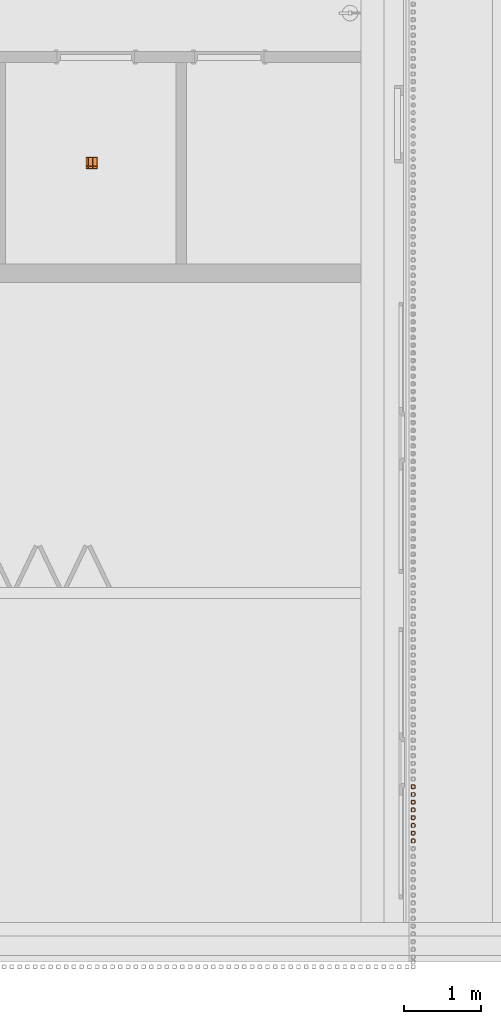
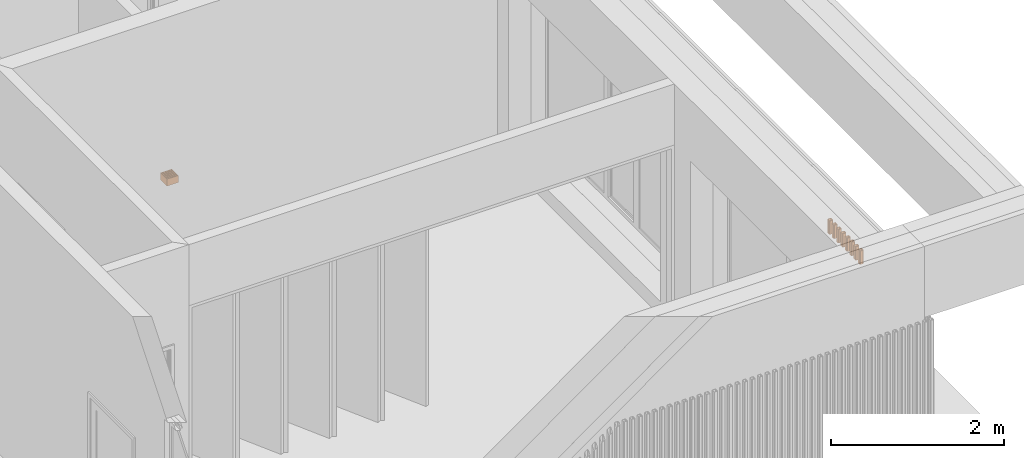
# One storey, part 90 of 112: 9 proxies.
"""IFC2X3 building model written with IfcOpenShell, lengths in millimetres."""

from ifc_helpers import new_model, entity, si_unit, converted_unit, derived_unit, money_unit, direction, frame, origin_with_axes, place, context, subcontext, project, spatial, faceted_brep, source, transform, mapped, material, type_object, element, save


model = new_model("IFC2X3")

# Units and contexts
model_context = context("Model", 3, precision=0.01, world=origin_with_axes(), true_north=direction((0.0, 1.0)))
body_context = subcontext(model_context, "Body", "Model", "MODEL_VIEW")
ifc_project = project(units=[si_unit("LENGTHUNIT", "METRE", prefix="MILLI"), si_unit("AREAUNIT", "SQUARE_METRE"), si_unit("VOLUMEUNIT", "CUBIC_METRE"), converted_unit("PLANEANGLEUNIT", "DEGREE", entity("IfcPlaneAngleMeasure", 0.0174532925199), si_unit("PLANEANGLEUNIT", "RADIAN"), dimensions=[0, 0, 0, 0, 0, 0, 0]), si_unit("SOLIDANGLEUNIT", "STERADIAN"), money_unit("EUR"), converted_unit("TIMEUNIT", "Year", entity("IfcTimeMeasure", 31556926.0), si_unit("TIMEUNIT", "SECOND"), dimensions=[0, 0, 1, 0, 0, 0, 0]), si_unit("MASSUNIT", "GRAM", prefix="KILO"), si_unit("THERMODYNAMICTEMPERATUREUNIT", "DEGREE_CELSIUS"), si_unit("LUMINOUSINTENSITYUNIT", "LUMEN"), si_unit("ENERGYUNIT", "JOULE", prefix="MEGA"), derived_unit("THERMALCONDUCTANCEUNIT", [(si_unit("POWERUNIT", "WATT"), 1), (si_unit("LENGTHUNIT", "METRE"), -1), (si_unit("THERMODYNAMICTEMPERATUREUNIT", "KELVIN"), -1)]), derived_unit("SPECIFICHEATCAPACITYUNIT", [(si_unit("ENERGYUNIT", "JOULE"), 1), (si_unit("MASSUNIT", "GRAM", prefix="KILO"), -1), (si_unit("THERMODYNAMICTEMPERATUREUNIT", "KELVIN"), -1)]), derived_unit("MASSDENSITYUNIT", [(si_unit("MASSUNIT", "GRAM", prefix="KILO"), 1), (si_unit("VOLUMEUNIT", "CUBIC_METRE"), -1)])], contexts=[model_context])

# Site, building, storey
site_placement = place(None, origin_with_axes())
site = spatial("IfcSite", under=ifc_project, at=site_placement, Name="Politse- ja Piirivalveameti ning Päästeameti ühishoone", CompositionType="ELEMENT")
building_placement = place(site_placement, origin_with_axes())
building = spatial("IfcBuilding", under=site, at=building_placement, Name="Politse- ja Piirivalveameti ning Päästeameti ühishoone", CompositionType="ELEMENT")
storey_placement = place(building_placement, origin_with_axes())
storey = spatial("IfcBuildingStorey", under=building, at=storey_placement, Name="Esimene korrus", CompositionType="ELEMENT", Elevation=0.0)

# Proxies
building_element_proxy_type_1 = type_object("IfcBuildingElementProxyType", Name="Grid 23", PredefinedType="NOTDEFINED")
shared_shape_1 = source(origin_with_axes(), body_context, "Body", "Brep", [
    faceted_brep([(0.0, 0.0, 0.0), (5.0, 5.0, 0.0), (5.0, 5.0, 100.0), (0.0, 0.0, 100.0), (0.0, 150.0, 0.0), (5.0, 145.0, 0.0), (5.0, 119.5, 0.0), (5.0, 117.5, 0.0), (5.0, 90.5, 0.0), (5.0, 88.5, 0.0), (5.0, 61.5, 0.0), (5.0, 59.5, 0.0), (5.0, 32.5, 0.0), (5.0, 30.5, 0.0), (5.0, 30.5, 100.0), (5.0, 32.5, 100.0), (5.0, 59.5, 100.0), (5.0, 61.5, 100.0), (5.0, 88.5, 100.0), (5.0, 90.5, 100.0), (5.0, 117.5, 100.0), (5.0, 119.5, 100.0), (5.0, 145.0, 100.0), (0.0, 150.0, 100.0)], [[[0, 1, 2, 3]], [[0, 4, 5, 6, 7, 8, 9, 10, 11, 12, 13, 1]], [[1, 13, 14, 2]], [[3, 2, 14, 15, 16, 17, 18, 19, 20, 21, 22, 23]], [[4, 0, 3, 23]], [[5, 4, 23, 22]], [[6, 5, 22, 21]], [[7, 6, 21, 20]], [[8, 7, 20, 19]], [[9, 8, 19, 18]], [[10, 9, 18, 17]], [[11, 10, 17, 16]], [[12, 11, 16, 15]], [[13, 12, 15, 14]]]),
    faceted_brep([(150.0, 150.0, 0.0), (145.0, 145.0, 0.0), (145.0, 145.0, 100.0), (150.0, 150.0, 100.0), (150.0, 0.0, 0.0), (145.0, 5.0, 0.0), (145.0, 30.5, 0.0), (145.0, 32.5, 0.0), (145.0, 59.5, 0.0), (145.0, 61.5, 0.0), (145.0, 88.5, 0.0), (145.0, 90.5, 0.0), (145.0, 117.5, 0.0), (145.0, 119.5, 0.0), (145.0, 119.5, 100.0), (145.0, 117.5, 100.0), (145.0, 90.5, 100.0), (145.0, 88.5, 100.0), (145.0, 61.5, 100.0), (145.0, 59.5, 100.0), (145.0, 32.5, 100.0), (145.0, 30.5, 100.0), (145.0, 5.0, 100.0), (150.0, 0.0, 100.0)], [[[0, 1, 2, 3]], [[0, 4, 5, 6, 7, 8, 9, 10, 11, 12, 13, 1]], [[1, 13, 14, 2]], [[3, 2, 14, 15, 16, 17, 18, 19, 20, 21, 22, 23]], [[4, 0, 3, 23]], [[5, 4, 23, 22]], [[6, 5, 22, 21]], [[7, 6, 21, 20]], [[8, 7, 20, 19]], [[9, 8, 19, 18]], [[10, 9, 18, 17]], [[11, 10, 17, 16]], [[12, 11, 16, 15]], [[13, 12, 15, 14]]]),
    faceted_brep([(150.0, 0.0, 0.0), (145.0, 5.0, 0.0), (145.0, 5.0, 100.0), (150.0, 0.0, 100.0), (0.0, 0.0, 0.0), (5.0, 5.0, 0.0), (30.5, 5.0, 0.0), (32.5, 5.0, 0.0), (59.5, 5.0, 0.0), (61.5, 5.0, 0.0), (88.5, 5.0, 0.0), (90.5, 5.0, 0.0), (117.5, 5.0, 0.0), (119.5, 5.0, 0.0), (119.5, 5.0, 100.0), (117.5, 5.0, 100.0), (90.5, 5.0, 100.0), (88.5, 5.0, 100.0), (61.5, 5.0, 100.0), (59.5, 5.0, 100.0), (32.5, 5.0, 100.0), (30.5, 5.0, 100.0), (5.0, 5.0, 100.0), (0.0, 0.0, 100.0)], [[[0, 1, 2, 3]], [[0, 4, 5, 6, 7, 8, 9, 10, 11, 12, 13, 1]], [[1, 13, 14, 2]], [[3, 2, 14, 15, 16, 17, 18, 19, 20, 21, 22, 23]], [[4, 0, 3, 23]], [[5, 4, 23, 22]], [[6, 5, 22, 21]], [[7, 6, 21, 20]], [[8, 7, 20, 19]], [[9, 8, 19, 18]], [[10, 9, 18, 17]], [[11, 10, 17, 16]], [[12, 11, 16, 15]], [[13, 12, 15, 14]]]),
    faceted_brep([(0.0, 150.0, 0.0), (5.0, 145.0, 0.0), (5.0, 145.0, 100.0), (0.0, 150.0, 100.0), (150.0, 150.0, 0.0), (145.0, 145.0, 0.0), (119.5, 145.0, 0.0), (117.5, 145.0, 0.0), (90.5, 145.0, 0.0), (88.5, 145.0, 0.0), (61.5, 145.0, 0.0), (59.5, 145.0, 0.0), (32.5, 145.0, 0.0), (30.5, 145.0, 0.0), (30.5, 145.0, 100.0), (32.5, 145.0, 100.0), (59.5, 145.0, 100.0), (61.5, 145.0, 100.0), (88.5, 145.0, 100.0), (90.5, 145.0, 100.0), (117.5, 145.0, 100.0), (119.5, 145.0, 100.0), (145.0, 145.0, 100.0), (150.0, 150.0, 100.0)], [[[0, 1, 2, 3]], [[0, 4, 5, 6, 7, 8, 9, 10, 11, 12, 13, 1]], [[1, 13, 14, 2]], [[3, 2, 14, 15, 16, 17, 18, 19, 20, 21, 22, 23]], [[4, 0, 3, 23]], [[5, 4, 23, 22]], [[6, 5, 22, 21]], [[7, 6, 21, 20]], [[8, 7, 20, 19]], [[9, 8, 19, 18]], [[10, 9, 18, 17]], [[11, 10, 17, 16]], [[12, 11, 16, 15]], [[13, 12, 15, 14]]]),
    faceted_brep([(30.5, 5.0, 0.0), (32.5, 5.0, 0.0), (32.5, 5.0, 100.0), (30.5, 5.0, 100.0), (30.5, 30.5, 0.0), (30.5, 32.5, 0.0), (30.5, 59.5, 0.0), (30.5, 61.5, 0.0), (30.5, 88.5, 0.0), (30.5, 90.5, 0.0), (30.5, 117.5, 0.0), (30.5, 119.5, 0.0), (30.5, 145.0, 0.0), (32.5, 145.0, 0.0), (32.5, 119.5, 0.0), (32.5, 117.5, 0.0), (32.5, 90.5, 0.0), (32.5, 88.5, 0.0), (32.5, 61.5, 0.0), (32.5, 59.5, 0.0), (32.5, 32.5, 0.0), (32.5, 30.5, 0.0), (32.5, 30.5, 100.0), (32.5, 32.5, 100.0), (32.5, 59.5, 100.0), (32.5, 61.5, 100.0), (32.5, 88.5, 100.0), (32.5, 90.5, 100.0), (32.5, 117.5, 100.0), (32.5, 119.5, 100.0), (32.5, 145.0, 100.0), (30.5, 145.0, 100.0), (30.5, 119.5, 100.0), (30.5, 117.5, 100.0), (30.5, 90.5, 100.0), (30.5, 88.5, 100.0), (30.5, 61.5, 100.0), (30.5, 59.5, 100.0), (30.5, 32.5, 100.0), (30.5, 30.5, 100.0)], [[[0, 1, 2, 3]], [[0, 4, 5, 6, 7, 8, 9, 10, 11, 12, 13, 14, 15, 16, 17, 18, 19, 20, 21, 1]], [[1, 21, 22, 2]], [[3, 2, 22, 23, 24, 25, 26, 27, 28, 29, 30, 31, 32, 33, 34, 35, 36, 37, 38, 39]], [[4, 0, 3, 39]], [[5, 4, 39, 38]], [[6, 5, 38, 37]], [[7, 6, 37, 36]], [[8, 7, 36, 35]], [[9, 8, 35, 34]], [[10, 9, 34, 33]], [[11, 10, 33, 32]], [[12, 11, 32, 31]], [[13, 12, 31, 30]], [[14, 13, 30, 29]], [[15, 14, 29, 28]], [[16, 15, 28, 27]], [[17, 16, 27, 26]], [[18, 17, 26, 25]], [[19, 18, 25, 24]], [[20, 19, 24, 23]], [[21, 20, 23, 22]]]),
    faceted_brep([(59.5, 5.0, 0.0), (61.5, 5.0, 0.0), (61.5, 5.0, 100.0), (59.5, 5.0, 100.0), (59.5, 30.5, 0.0), (59.5, 32.5, 0.0), (59.5, 59.5, 0.0), (59.5, 61.5, 0.0), (59.5, 88.5, 0.0), (59.5, 90.5, 0.0), (59.5, 117.5, 0.0), (59.5, 119.5, 0.0), (59.5, 145.0, 0.0), (61.5, 145.0, 0.0), (61.5, 119.5, 0.0), (61.5, 117.5, 0.0), (61.5, 90.5, 0.0), (61.5, 88.5, 0.0), (61.5, 61.5, 0.0), (61.5, 59.5, 0.0), (61.5, 32.5, 0.0), (61.5, 30.5, 0.0), (61.5, 30.5, 100.0), (61.5, 32.5, 100.0), (61.5, 59.5, 100.0), (61.5, 61.5, 100.0), (61.5, 88.5, 100.0), (61.5, 90.5, 100.0), (61.5, 117.5, 100.0), (61.5, 119.5, 100.0), (61.5, 145.0, 100.0), (59.5, 145.0, 100.0), (59.5, 119.5, 100.0), (59.5, 117.5, 100.0), (59.5, 90.5, 100.0), (59.5, 88.5, 100.0), (59.5, 61.5, 100.0), (59.5, 59.5, 100.0), (59.5, 32.5, 100.0), (59.5, 30.5, 100.0)], [[[0, 1, 2, 3]], [[0, 4, 5, 6, 7, 8, 9, 10, 11, 12, 13, 14, 15, 16, 17, 18, 19, 20, 21, 1]], [[1, 21, 22, 2]], [[3, 2, 22, 23, 24, 25, 26, 27, 28, 29, 30, 31, 32, 33, 34, 35, 36, 37, 38, 39]], [[4, 0, 3, 39]], [[5, 4, 39, 38]], [[6, 5, 38, 37]], [[7, 6, 37, 36]], [[8, 7, 36, 35]], [[9, 8, 35, 34]], [[10, 9, 34, 33]], [[11, 10, 33, 32]], [[12, 11, 32, 31]], [[13, 12, 31, 30]], [[14, 13, 30, 29]], [[15, 14, 29, 28]], [[16, 15, 28, 27]], [[17, 16, 27, 26]], [[18, 17, 26, 25]], [[19, 18, 25, 24]], [[20, 19, 24, 23]], [[21, 20, 23, 22]]]),
    faceted_brep([(88.5, 5.0, 0.0), (90.5, 5.0, 0.0), (90.5, 5.0, 100.0), (88.5, 5.0, 100.0), (88.5, 30.5, 0.0), (88.5, 32.5, 0.0), (88.5, 59.5, 0.0), (88.5, 61.5, 0.0), (88.5, 88.5, 0.0), (88.5, 90.5, 0.0), (88.5, 117.5, 0.0), (88.5, 119.5, 0.0), (88.5, 145.0, 0.0), (90.5, 145.0, 0.0), (90.5, 119.5, 0.0), (90.5, 117.5, 0.0), (90.5, 90.5, 0.0), (90.5, 88.5, 0.0), (90.5, 61.5, 0.0), (90.5, 59.5, 0.0), (90.5, 32.5, 0.0), (90.5, 30.5, 0.0), (90.5, 30.5, 100.0), (90.5, 32.5, 100.0), (90.5, 59.5, 100.0), (90.5, 61.5, 100.0), (90.5, 88.5, 100.0), (90.5, 90.5, 100.0), (90.5, 117.5, 100.0), (90.5, 119.5, 100.0), (90.5, 145.0, 100.0), (88.5, 145.0, 100.0), (88.5, 119.5, 100.0), (88.5, 117.5, 100.0), (88.5, 90.5, 100.0), (88.5, 88.5, 100.0), (88.5, 61.5, 100.0), (88.5, 59.5, 100.0), (88.5, 32.5, 100.0), (88.5, 30.5, 100.0)], [[[0, 1, 2, 3]], [[0, 4, 5, 6, 7, 8, 9, 10, 11, 12, 13, 14, 15, 16, 17, 18, 19, 20, 21, 1]], [[1, 21, 22, 2]], [[3, 2, 22, 23, 24, 25, 26, 27, 28, 29, 30, 31, 32, 33, 34, 35, 36, 37, 38, 39]], [[4, 0, 3, 39]], [[5, 4, 39, 38]], [[6, 5, 38, 37]], [[7, 6, 37, 36]], [[8, 7, 36, 35]], [[9, 8, 35, 34]], [[10, 9, 34, 33]], [[11, 10, 33, 32]], [[12, 11, 32, 31]], [[13, 12, 31, 30]], [[14, 13, 30, 29]], [[15, 14, 29, 28]], [[16, 15, 28, 27]], [[17, 16, 27, 26]], [[18, 17, 26, 25]], [[19, 18, 25, 24]], [[20, 19, 24, 23]], [[21, 20, 23, 22]]]),
    faceted_brep([(117.5, 5.0, 0.0), (119.5, 5.0, 0.0), (119.5, 5.0, 100.0), (117.5, 5.0, 100.0), (117.5, 30.5, 0.0), (117.5, 32.5, 0.0), (117.5, 59.5, 0.0), (117.5, 61.5, 0.0), (117.5, 88.5, 0.0), (117.5, 90.5, 0.0), (117.5, 117.5, 0.0), (117.5, 119.5, 0.0), (117.5, 145.0, 0.0), (119.5, 145.0, 0.0), (119.5, 119.5, 0.0), (119.5, 117.5, 0.0), (119.5, 90.5, 0.0), (119.5, 88.5, 0.0), (119.5, 61.5, 0.0), (119.5, 59.5, 0.0), (119.5, 32.5, 0.0), (119.5, 30.5, 0.0), (119.5, 30.5, 100.0), (119.5, 32.5, 100.0), (119.5, 59.5, 100.0), (119.5, 61.5, 100.0), (119.5, 88.5, 100.0), (119.5, 90.5, 100.0), (119.5, 117.5, 100.0), (119.5, 119.5, 100.0), (119.5, 145.0, 100.0), (117.5, 145.0, 100.0), (117.5, 119.5, 100.0), (117.5, 117.5, 100.0), (117.5, 90.5, 100.0), (117.5, 88.5, 100.0), (117.5, 61.5, 100.0), (117.5, 59.5, 100.0), (117.5, 32.5, 100.0), (117.5, 30.5, 100.0)], [[[0, 1, 2, 3]], [[0, 4, 5, 6, 7, 8, 9, 10, 11, 12, 13, 14, 15, 16, 17, 18, 19, 20, 21, 1]], [[1, 21, 22, 2]], [[3, 2, 22, 23, 24, 25, 26, 27, 28, 29, 30, 31, 32, 33, 34, 35, 36, 37, 38, 39]], [[4, 0, 3, 39]], [[5, 4, 39, 38]], [[6, 5, 38, 37]], [[7, 6, 37, 36]], [[8, 7, 36, 35]], [[9, 8, 35, 34]], [[10, 9, 34, 33]], [[11, 10, 33, 32]], [[12, 11, 32, 31]], [[13, 12, 31, 30]], [[14, 13, 30, 29]], [[15, 14, 29, 28]], [[16, 15, 28, 27]], [[17, 16, 27, 26]], [[18, 17, 26, 25]], [[19, 18, 25, 24]], [[20, 19, 24, 23]], [[21, 20, 23, 22]]]),
    faceted_brep([(30.5, 30.5, 0.0), (30.5, 32.5, 0.0), (30.5, 32.5, 100.0), (30.5, 30.5, 100.0), (5.0, 30.5, 0.0), (5.0, 32.5, 0.0), (5.0, 32.5, 100.0), (5.0, 30.5, 100.0)], [[[0, 1, 2, 3]], [[0, 4, 5, 1]], [[1, 5, 6, 2]], [[3, 2, 6, 7]], [[4, 0, 3, 7]], [[5, 4, 7, 6]]]),
    faceted_brep([(30.5, 59.5, 0.0), (30.5, 61.5, 0.0), (30.5, 61.5, 100.0), (30.5, 59.5, 100.0), (5.0, 59.5, 0.0), (5.0, 61.5, 0.0), (5.0, 61.5, 100.0), (5.0, 59.5, 100.0)], [[[0, 1, 2, 3]], [[0, 4, 5, 1]], [[1, 5, 6, 2]], [[3, 2, 6, 7]], [[4, 0, 3, 7]], [[5, 4, 7, 6]]]),
    faceted_brep([(30.5, 88.5, 0.0), (30.5, 90.5, 0.0), (30.5, 90.5, 100.0), (30.5, 88.5, 100.0), (5.0, 88.5, 0.0), (5.0, 90.5, 0.0), (5.0, 90.5, 100.0), (5.0, 88.5, 100.0)], [[[0, 1, 2, 3]], [[0, 4, 5, 1]], [[1, 5, 6, 2]], [[3, 2, 6, 7]], [[4, 0, 3, 7]], [[5, 4, 7, 6]]]),
    faceted_brep([(30.5, 117.5, 0.0), (30.5, 119.5, 0.0), (30.5, 119.5, 100.0), (30.5, 117.5, 100.0), (5.0, 117.5, 0.0), (5.0, 119.5, 0.0), (5.0, 119.5, 100.0), (5.0, 117.5, 100.0)], [[[0, 1, 2, 3]], [[0, 4, 5, 1]], [[1, 5, 6, 2]], [[3, 2, 6, 7]], [[4, 0, 3, 7]], [[5, 4, 7, 6]]]),
    faceted_brep([(59.5, 30.5, 0.0), (59.5, 32.5, 0.0), (59.5, 32.5, 100.0), (59.5, 30.5, 100.0), (32.5, 30.5, 0.0), (32.5, 32.5, 0.0), (32.5, 32.5, 100.0), (32.5, 30.5, 100.0)], [[[0, 1, 2, 3]], [[0, 4, 5, 1]], [[1, 5, 6, 2]], [[3, 2, 6, 7]], [[4, 0, 3, 7]], [[5, 4, 7, 6]]]),
    faceted_brep([(59.5, 59.5, 0.0), (59.5, 61.5, 0.0), (59.5, 61.5, 100.0), (59.5, 59.5, 100.0), (32.5, 59.5, 0.0), (32.5, 61.5, 0.0), (32.5, 61.5, 100.0), (32.5, 59.5, 100.0)], [[[0, 1, 2, 3]], [[0, 4, 5, 1]], [[1, 5, 6, 2]], [[3, 2, 6, 7]], [[4, 0, 3, 7]], [[5, 4, 7, 6]]]),
    faceted_brep([(59.5, 88.5, 0.0), (59.5, 90.5, 0.0), (59.5, 90.5, 100.0), (59.5, 88.5, 100.0), (32.5, 88.5, 0.0), (32.5, 90.5, 0.0), (32.5, 90.5, 100.0), (32.5, 88.5, 100.0)], [[[0, 1, 2, 3]], [[0, 4, 5, 1]], [[1, 5, 6, 2]], [[3, 2, 6, 7]], [[4, 0, 3, 7]], [[5, 4, 7, 6]]]),
    faceted_brep([(59.5, 117.5, 0.0), (59.5, 119.5, 0.0), (59.5, 119.5, 100.0), (59.5, 117.5, 100.0), (32.5, 117.5, 0.0), (32.5, 119.5, 0.0), (32.5, 119.5, 100.0), (32.5, 117.5, 100.0)], [[[0, 1, 2, 3]], [[0, 4, 5, 1]], [[1, 5, 6, 2]], [[3, 2, 6, 7]], [[4, 0, 3, 7]], [[5, 4, 7, 6]]]),
    faceted_brep([(88.5, 30.5, 0.0), (88.5, 32.5, 0.0), (88.5, 32.5, 100.0), (88.5, 30.5, 100.0), (61.5, 30.5, 0.0), (61.5, 32.5, 0.0), (61.5, 32.5, 100.0), (61.5, 30.5, 100.0)], [[[0, 1, 2, 3]], [[0, 4, 5, 1]], [[1, 5, 6, 2]], [[3, 2, 6, 7]], [[4, 0, 3, 7]], [[5, 4, 7, 6]]]),
    faceted_brep([(88.5, 59.5, 0.0), (88.5, 61.5, 0.0), (88.5, 61.5, 100.0), (88.5, 59.5, 100.0), (61.5, 59.5, 0.0), (61.5, 61.5, 0.0), (61.5, 61.5, 100.0), (61.5, 59.5, 100.0)], [[[0, 1, 2, 3]], [[0, 4, 5, 1]], [[1, 5, 6, 2]], [[3, 2, 6, 7]], [[4, 0, 3, 7]], [[5, 4, 7, 6]]]),
    faceted_brep([(88.5, 88.5, 0.0), (88.5, 90.5, 0.0), (88.5, 90.5, 100.0), (88.5, 88.5, 100.0), (61.5, 88.5, 0.0), (61.5, 90.5, 0.0), (61.5, 90.5, 100.0), (61.5, 88.5, 100.0)], [[[0, 1, 2, 3]], [[0, 4, 5, 1]], [[1, 5, 6, 2]], [[3, 2, 6, 7]], [[4, 0, 3, 7]], [[5, 4, 7, 6]]]),
    faceted_brep([(88.5, 117.5, 0.0), (88.5, 119.5, 0.0), (88.5, 119.5, 100.0), (88.5, 117.5, 100.0), (61.5, 117.5, 0.0), (61.5, 119.5, 0.0), (61.5, 119.5, 100.0), (61.5, 117.5, 100.0)], [[[0, 1, 2, 3]], [[0, 4, 5, 1]], [[1, 5, 6, 2]], [[3, 2, 6, 7]], [[4, 0, 3, 7]], [[5, 4, 7, 6]]]),
    faceted_brep([(117.5, 30.5, 0.0), (117.5, 32.5, 0.0), (117.5, 32.5, 100.0), (117.5, 30.5, 100.0), (90.5, 30.5, 0.0), (90.5, 32.5, 0.0), (90.5, 32.5, 100.0), (90.5, 30.5, 100.0)], [[[0, 1, 2, 3]], [[0, 4, 5, 1]], [[1, 5, 6, 2]], [[3, 2, 6, 7]], [[4, 0, 3, 7]], [[5, 4, 7, 6]]]),
    faceted_brep([(117.5, 59.5, 0.0), (117.5, 61.5, 0.0), (117.5, 61.5, 100.0), (117.5, 59.5, 100.0), (90.5, 59.5, 0.0), (90.5, 61.5, 0.0), (90.5, 61.5, 100.0), (90.5, 59.5, 100.0)], [[[0, 1, 2, 3]], [[0, 4, 5, 1]], [[1, 5, 6, 2]], [[3, 2, 6, 7]], [[4, 0, 3, 7]], [[5, 4, 7, 6]]]),
    faceted_brep([(117.5, 88.5, 0.0), (117.5, 90.5, 0.0), (117.5, 90.5, 100.0), (117.5, 88.5, 100.0), (90.5, 88.5, 0.0), (90.5, 90.5, 0.0), (90.5, 90.5, 100.0), (90.5, 88.5, 100.0)], [[[0, 1, 2, 3]], [[0, 4, 5, 1]], [[1, 5, 6, 2]], [[3, 2, 6, 7]], [[4, 0, 3, 7]], [[5, 4, 7, 6]]]),
    faceted_brep([(117.5, 117.5, 0.0), (117.5, 119.5, 0.0), (117.5, 119.5, 100.0), (117.5, 117.5, 100.0), (90.5, 117.5, 0.0), (90.5, 119.5, 0.0), (90.5, 119.5, 100.0), (90.5, 117.5, 100.0)], [[[0, 1, 2, 3]], [[0, 4, 5, 1]], [[1, 5, 6, 2]], [[3, 2, 6, 7]], [[4, 0, 3, 7]], [[5, 4, 7, 6]]]),
    faceted_brep([(145.0, 30.5, 0.0), (145.0, 32.5, 0.0), (145.0, 32.5, 100.0), (145.0, 30.5, 100.0), (119.5, 30.5, 0.0), (119.5, 32.5, 0.0), (119.5, 32.5, 100.0), (119.5, 30.5, 100.0)], [[[0, 1, 2, 3]], [[0, 4, 5, 1]], [[1, 5, 6, 2]], [[3, 2, 6, 7]], [[4, 0, 3, 7]], [[5, 4, 7, 6]]]),
    faceted_brep([(145.0, 59.5, 0.0), (145.0, 61.5, 0.0), (145.0, 61.5, 100.0), (145.0, 59.5, 100.0), (119.5, 59.5, 0.0), (119.5, 61.5, 0.0), (119.5, 61.5, 100.0), (119.5, 59.5, 100.0)], [[[0, 1, 2, 3]], [[0, 4, 5, 1]], [[1, 5, 6, 2]], [[3, 2, 6, 7]], [[4, 0, 3, 7]], [[5, 4, 7, 6]]]),
    faceted_brep([(145.0, 88.5, 0.0), (145.0, 90.5, 0.0), (145.0, 90.5, 100.0), (145.0, 88.5, 100.0), (119.5, 88.5, 0.0), (119.5, 90.5, 0.0), (119.5, 90.5, 100.0), (119.5, 88.5, 100.0)], [[[0, 1, 2, 3]], [[0, 4, 5, 1]], [[1, 5, 6, 2]], [[3, 2, 6, 7]], [[4, 0, 3, 7]], [[5, 4, 7, 6]]]),
    faceted_brep([(145.0, 117.5, 0.0), (145.0, 119.5, 0.0), (145.0, 119.5, 100.0), (145.0, 117.5, 100.0), (119.5, 117.5, 0.0), (119.5, 119.5, 0.0), (119.5, 119.5, 100.0), (119.5, 117.5, 100.0)], [[[0, 1, 2, 3]], [[0, 4, 5, 1]], [[1, 5, 6, 2]], [[3, 2, 6, 7]], [[4, 0, 3, 7]], [[5, 4, 7, 6]]]),
    faceted_brep([(5.0, 5.0, 43.65), (30.5, 5.0, 43.65), (30.5, 5.0, 56.35), (5.0, 5.0, 56.35), (5.0, 30.5, 43.65), (30.5, 30.5, 43.65), (30.5, 30.5, 56.35), (5.0, 30.5, 56.35)], [[[0, 1, 2, 3]], [[0, 4, 5, 1]], [[1, 5, 6, 2]], [[3, 2, 6, 7]], [[4, 0, 3, 7]], [[5, 4, 7, 6]]]),
    faceted_brep([(5.0, 32.5, 43.65), (30.5, 32.5, 43.65), (30.5, 32.5, 56.35), (5.0, 32.5, 56.35), (5.0, 59.5, 43.65), (30.5, 59.5, 43.65), (30.5, 59.5, 56.35), (5.0, 59.5, 56.35)], [[[0, 1, 2, 3]], [[0, 4, 5, 1]], [[1, 5, 6, 2]], [[3, 2, 6, 7]], [[4, 0, 3, 7]], [[5, 4, 7, 6]]]),
    faceted_brep([(5.0, 61.5, 43.65), (30.5, 61.5, 43.65), (30.5, 61.5, 56.35), (5.0, 61.5, 56.35), (5.0, 88.5, 43.65), (30.5, 88.5, 43.65), (30.5, 88.5, 56.35), (5.0, 88.5, 56.35)], [[[0, 1, 2, 3]], [[0, 4, 5, 1]], [[1, 5, 6, 2]], [[3, 2, 6, 7]], [[4, 0, 3, 7]], [[5, 4, 7, 6]]]),
    faceted_brep([(5.0, 90.5, 43.65), (30.5, 90.5, 43.65), (30.5, 90.5, 56.35), (5.0, 90.5, 56.35), (5.0, 117.5, 43.65), (30.5, 117.5, 43.65), (30.5, 117.5, 56.35), (5.0, 117.5, 56.35)], [[[0, 1, 2, 3]], [[0, 4, 5, 1]], [[1, 5, 6, 2]], [[3, 2, 6, 7]], [[4, 0, 3, 7]], [[5, 4, 7, 6]]]),
    faceted_brep([(5.0, 119.5, 43.65), (30.5, 119.5, 43.65), (30.5, 119.5, 56.35), (5.0, 119.5, 56.35), (5.0, 145.0, 43.65), (30.5, 145.0, 43.65), (30.5, 145.0, 56.35), (5.0, 145.0, 56.35)], [[[0, 1, 2, 3]], [[0, 4, 5, 1]], [[1, 5, 6, 2]], [[3, 2, 6, 7]], [[4, 0, 3, 7]], [[5, 4, 7, 6]]]),
    faceted_brep([(32.5, 5.0, 43.65), (59.5, 5.0, 43.65), (59.5, 5.0, 56.35), (32.5, 5.0, 56.35), (32.5, 30.5, 43.65), (59.5, 30.5, 43.65), (59.5, 30.5, 56.35), (32.5, 30.5, 56.35)], [[[0, 1, 2, 3]], [[0, 4, 5, 1]], [[1, 5, 6, 2]], [[3, 2, 6, 7]], [[4, 0, 3, 7]], [[5, 4, 7, 6]]]),
    faceted_brep([(32.5, 32.5, 43.65), (59.5, 32.5, 43.65), (59.5, 32.5, 56.35), (32.5, 32.5, 56.35), (32.5, 59.5, 43.65), (59.5, 59.5, 43.65), (59.5, 59.5, 56.35), (32.5, 59.5, 56.35)], [[[0, 1, 2, 3]], [[0, 4, 5, 1]], [[1, 5, 6, 2]], [[3, 2, 6, 7]], [[4, 0, 3, 7]], [[5, 4, 7, 6]]]),
    faceted_brep([(32.5, 61.5, 43.65), (59.5, 61.5, 43.65), (59.5, 61.5, 56.35), (32.5, 61.5, 56.35), (32.5, 88.5, 43.65), (59.5, 88.5, 43.65), (59.5, 88.5, 56.35), (32.5, 88.5, 56.35)], [[[0, 1, 2, 3]], [[0, 4, 5, 1]], [[1, 5, 6, 2]], [[3, 2, 6, 7]], [[4, 0, 3, 7]], [[5, 4, 7, 6]]]),
    faceted_brep([(32.5, 90.5, 43.65), (59.5, 90.5, 43.65), (59.5, 90.5, 56.35), (32.5, 90.5, 56.35), (32.5, 117.5, 43.65), (59.5, 117.5, 43.65), (59.5, 117.5, 56.35), (32.5, 117.5, 56.35)], [[[0, 1, 2, 3]], [[0, 4, 5, 1]], [[1, 5, 6, 2]], [[3, 2, 6, 7]], [[4, 0, 3, 7]], [[5, 4, 7, 6]]]),
    faceted_brep([(32.5, 119.5, 43.65), (59.5, 119.5, 43.65), (59.5, 119.5, 56.35), (32.5, 119.5, 56.35), (32.5, 145.0, 43.65), (59.5, 145.0, 43.65), (59.5, 145.0, 56.35), (32.5, 145.0, 56.35)], [[[0, 1, 2, 3]], [[0, 4, 5, 1]], [[1, 5, 6, 2]], [[3, 2, 6, 7]], [[4, 0, 3, 7]], [[5, 4, 7, 6]]]),
    faceted_brep([(61.5, 5.0, 43.65), (88.5, 5.0, 43.65), (88.5, 5.0, 56.35), (61.5, 5.0, 56.35), (61.5, 30.5, 43.65), (88.5, 30.5, 43.65), (88.5, 30.5, 56.35), (61.5, 30.5, 56.35)], [[[0, 1, 2, 3]], [[0, 4, 5, 1]], [[1, 5, 6, 2]], [[3, 2, 6, 7]], [[4, 0, 3, 7]], [[5, 4, 7, 6]]]),
    faceted_brep([(61.5, 32.5, 43.65), (88.5, 32.5, 43.65), (88.5, 32.5, 56.35), (61.5, 32.5, 56.35), (61.5, 59.5, 43.65), (88.5, 59.5, 43.65), (88.5, 59.5, 56.35), (61.5, 59.5, 56.35)], [[[0, 1, 2, 3]], [[0, 4, 5, 1]], [[1, 5, 6, 2]], [[3, 2, 6, 7]], [[4, 0, 3, 7]], [[5, 4, 7, 6]]]),
    faceted_brep([(61.5, 61.5, 43.65), (88.5, 61.5, 43.65), (88.5, 61.5, 56.35), (61.5, 61.5, 56.35), (61.5, 88.5, 43.65), (88.5, 88.5, 43.65), (88.5, 88.5, 56.35), (61.5, 88.5, 56.35)], [[[0, 1, 2, 3]], [[0, 4, 5, 1]], [[1, 5, 6, 2]], [[3, 2, 6, 7]], [[4, 0, 3, 7]], [[5, 4, 7, 6]]]),
    faceted_brep([(61.5, 90.5, 43.65), (88.5, 90.5, 43.65), (88.5, 90.5, 56.35), (61.5, 90.5, 56.35), (61.5, 117.5, 43.65), (88.5, 117.5, 43.65), (88.5, 117.5, 56.35), (61.5, 117.5, 56.35)], [[[0, 1, 2, 3]], [[0, 4, 5, 1]], [[1, 5, 6, 2]], [[3, 2, 6, 7]], [[4, 0, 3, 7]], [[5, 4, 7, 6]]]),
    faceted_brep([(61.5, 119.5, 43.65), (88.5, 119.5, 43.65), (88.5, 119.5, 56.35), (61.5, 119.5, 56.35), (61.5, 145.0, 43.65), (88.5, 145.0, 43.65), (88.5, 145.0, 56.35), (61.5, 145.0, 56.35)], [[[0, 1, 2, 3]], [[0, 4, 5, 1]], [[1, 5, 6, 2]], [[3, 2, 6, 7]], [[4, 0, 3, 7]], [[5, 4, 7, 6]]]),
    faceted_brep([(90.5, 5.0, 43.65), (117.5, 5.0, 43.65), (117.5, 5.0, 56.35), (90.5, 5.0, 56.35), (90.5, 30.5, 43.65), (117.5, 30.5, 43.65), (117.5, 30.5, 56.35), (90.5, 30.5, 56.35)], [[[0, 1, 2, 3]], [[0, 4, 5, 1]], [[1, 5, 6, 2]], [[3, 2, 6, 7]], [[4, 0, 3, 7]], [[5, 4, 7, 6]]]),
    faceted_brep([(90.5, 32.5, 43.65), (117.5, 32.5, 43.65), (117.5, 32.5, 56.35), (90.5, 32.5, 56.35), (90.5, 59.5, 43.65), (117.5, 59.5, 43.65), (117.5, 59.5, 56.35), (90.5, 59.5, 56.35)], [[[0, 1, 2, 3]], [[0, 4, 5, 1]], [[1, 5, 6, 2]], [[3, 2, 6, 7]], [[4, 0, 3, 7]], [[5, 4, 7, 6]]]),
    faceted_brep([(90.5, 61.5, 43.65), (117.5, 61.5, 43.65), (117.5, 61.5, 56.35), (90.5, 61.5, 56.35), (90.5, 88.5, 43.65), (117.5, 88.5, 43.65), (117.5, 88.5, 56.35), (90.5, 88.5, 56.35)], [[[0, 1, 2, 3]], [[0, 4, 5, 1]], [[1, 5, 6, 2]], [[3, 2, 6, 7]], [[4, 0, 3, 7]], [[5, 4, 7, 6]]]),
    faceted_brep([(90.5, 90.5, 43.65), (117.5, 90.5, 43.65), (117.5, 90.5, 56.35), (90.5, 90.5, 56.35), (90.5, 117.5, 43.65), (117.5, 117.5, 43.65), (117.5, 117.5, 56.35), (90.5, 117.5, 56.35)], [[[0, 1, 2, 3]], [[0, 4, 5, 1]], [[1, 5, 6, 2]], [[3, 2, 6, 7]], [[4, 0, 3, 7]], [[5, 4, 7, 6]]]),
    faceted_brep([(90.5, 119.5, 43.65), (117.5, 119.5, 43.65), (117.5, 119.5, 56.35), (90.5, 119.5, 56.35), (90.5, 145.0, 43.65), (117.5, 145.0, 43.65), (117.5, 145.0, 56.35), (90.5, 145.0, 56.35)], [[[0, 1, 2, 3]], [[0, 4, 5, 1]], [[1, 5, 6, 2]], [[3, 2, 6, 7]], [[4, 0, 3, 7]], [[5, 4, 7, 6]]]),
    faceted_brep([(119.5, 5.0, 43.65), (145.0, 5.0, 43.65), (145.0, 5.0, 56.35), (119.5, 5.0, 56.35), (119.5, 30.5, 43.65), (145.0, 30.5, 43.65), (145.0, 30.5, 56.35), (119.5, 30.5, 56.35)], [[[0, 1, 2, 3]], [[0, 4, 5, 1]], [[1, 5, 6, 2]], [[3, 2, 6, 7]], [[4, 0, 3, 7]], [[5, 4, 7, 6]]]),
    faceted_brep([(119.5, 32.5, 43.65), (145.0, 32.5, 43.65), (145.0, 32.5, 56.35), (119.5, 32.5, 56.35), (119.5, 59.5, 43.65), (145.0, 59.5, 43.65), (145.0, 59.5, 56.35), (119.5, 59.5, 56.35)], [[[0, 1, 2, 3]], [[0, 4, 5, 1]], [[1, 5, 6, 2]], [[3, 2, 6, 7]], [[4, 0, 3, 7]], [[5, 4, 7, 6]]]),
    faceted_brep([(119.5, 61.5, 43.65), (145.0, 61.5, 43.65), (145.0, 61.5, 56.35), (119.5, 61.5, 56.35), (119.5, 88.5, 43.65), (145.0, 88.5, 43.65), (145.0, 88.5, 56.35), (119.5, 88.5, 56.35)], [[[0, 1, 2, 3]], [[0, 4, 5, 1]], [[1, 5, 6, 2]], [[3, 2, 6, 7]], [[4, 0, 3, 7]], [[5, 4, 7, 6]]]),
    faceted_brep([(119.5, 90.5, 43.65), (145.0, 90.5, 43.65), (145.0, 90.5, 56.35), (119.5, 90.5, 56.35), (119.5, 117.5, 43.65), (145.0, 117.5, 43.65), (145.0, 117.5, 56.35), (119.5, 117.5, 56.35)], [[[0, 1, 2, 3]], [[0, 4, 5, 1]], [[1, 5, 6, 2]], [[3, 2, 6, 7]], [[4, 0, 3, 7]], [[5, 4, 7, 6]]]),
    faceted_brep([(119.5, 119.5, 43.65), (145.0, 119.5, 43.65), (145.0, 119.5, 56.35), (119.5, 119.5, 56.35), (119.5, 145.0, 43.65), (145.0, 145.0, 43.65), (145.0, 145.0, 56.35), (119.5, 145.0, 56.35)], [[[0, 1, 2, 3]], [[0, 4, 5, 1]], [[1, 5, 6, 2]], [[3, 2, 6, 7]], [[4, 0, 3, 7]], [[5, 4, 7, 6]]]),
])
proxy_placement = place(storey_placement, frame((64410.0638226, 9726.42430133, -100.0), z_axis=(0.0, 0.0, 1.0), x_axis=(1.0, 0.0, 0.0)))
element("IfcBuildingElementProxy", 1, at=proxy_placement, inside=storey, type_object=building_element_proxy_type_1, Name="Trapp (137)", context=body_context, shape_type="MappedRepresentation", body=[
    mapped(shared_shape_1, transform((0.0, 0.0, 0.0))),
])
ifc_material = material(Name="ET-05_Teras")
building_element_proxy_type_2 = type_object("IfcBuildingElementProxyType", Name="SHS Cold-Formed Column 23", PredefinedType="NOTDEFINED")
shared_shape_2 = source(origin_with_axes(), body_context, "Body", "Brep", [
    faceted_brep([(-17.0, -25.0, 0.0), (17.0, -25.0, 0.0), (17.0, -25.0, 190.0), (-17.0, -25.0, 190.0), (-22.6568542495, -22.6568542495, 0.0), (-25.0, -17.0, 0.0), (-25.0, 17.0, 0.0), (-22.6568542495, 22.6568542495, 0.0), (-17.0, 25.0, 0.0), (17.0, 25.0, 0.0), (22.6568542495, 22.6568542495, 0.0), (25.0, 17.0, 0.0), (25.0, -17.0, 0.0), (22.6568542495, -22.6568542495, 0.0), (-17.0, -21.0, 0.0), (17.0, -21.0, 0.0), (19.8284271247, -19.8284271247, 0.0), (21.0, -17.0, 0.0), (21.0, 17.0, 0.0), (19.8284271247, 19.8284271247, 0.0), (17.0, 21.0, 0.0), (-17.0, 21.0, 0.0), (-19.8284271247, 19.8284271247, 0.0), (-21.0, 17.0, 0.0), (-21.0, -17.0, 0.0), (-19.8284271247, -19.8284271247, 0.0), (22.6568542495, -22.6568542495, 190.0), (25.0, -17.0, 190.0), (25.0, 17.0, 190.0), (22.6568542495, 22.6568542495, 190.0), (17.0, 25.0, 190.0), (-17.0, 25.0, 190.0), (-22.6568542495, 22.6568542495, 190.0), (-25.0, 17.0, 190.0), (-25.0, -17.0, 190.0), (-22.6568542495, -22.6568542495, 190.0), (-17.0, -21.0, 190.0), (-19.8284271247, -19.8284271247, 190.0), (-21.0, -17.0, 190.0), (-21.0, 17.0, 190.0), (-19.8284271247, 19.8284271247, 190.0), (-17.0, 21.0, 190.0), (17.0, 21.0, 190.0), (19.8284271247, 19.8284271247, 190.0), (21.0, 17.0, 190.0), (21.0, -17.0, 190.0), (19.8284271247, -19.8284271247, 190.0), (17.0, -21.0, 190.0)], [[[0, 1, 2, 3]], [[0, 4, 5, 6, 7, 8, 9, 10, 11, 12, 13, 1], [14, 15, 16, 17, 18, 19, 20, 21, 22, 23, 24, 25]], [[1, 13, 26, 2]], [[3, 2, 26, 27, 28, 29, 30, 31, 32, 33, 34, 35], [36, 37, 38, 39, 40, 41, 42, 43, 44, 45, 46, 47]], [[4, 0, 3, 35]], [[5, 4, 35, 34]], [[6, 5, 34, 33]], [[7, 6, 33, 32]], [[8, 7, 32, 31]], [[9, 8, 31, 30]], [[10, 9, 30, 29]], [[11, 10, 29, 28]], [[12, 11, 28, 27]], [[13, 12, 27, 26]], [[15, 14, 36, 47]], [[16, 15, 47, 46]], [[17, 16, 46, 45]], [[18, 17, 45, 44]], [[19, 18, 44, 43]], [[20, 19, 43, 42]], [[21, 20, 42, 41]], [[22, 21, 41, 40]], [[23, 22, 40, 39]], [[24, 23, 39, 38]], [[25, 24, 38, 37]], [[14, 25, 37, 36]]]),
])
for number, where, z_axis, x_axis in (
    (2, (68635.2095212, 1750.07024411, 2600.0), (0.0, 0.0, 1.0), (1.0, 0.0, 0.0)),
    (3, (68635.2095212, 1650.07024411, 2600.0), (0.0, 0.0, 1.0), (1.0, 0.0, 0.0)),
    (4, (68635.2095212, 1550.07024411, 2600.0), (0.0, 0.0, 1.0), (1.0, 0.0, 0.0)),
    (5, (68635.2095212, 1450.07024411, 2600.0), (0.0, 0.0, 1.0), (1.0, 0.0, 0.0)),
    (6, (68635.2095212, 1350.07024411, 2600.0), (0.0, 0.0, 1.0), (1.0, 0.0, 0.0)),
    (7, (68635.2095212, 1250.07024411, 2600.0), (0.0, 0.0, 1.0), (1.0, 0.0, 0.0)),
    (8, (68635.2095212, 1150.07024411, 2600.0), (0.0, 0.0, 1.0), (1.0, 0.0, 0.0)),
    (9, (68635.2095212, 1050.07024411, 2600.0), (0.0, 0.0, 1.0), (1.0, 0.0, 0.0)),
):
    element("IfcBuildingElementProxy", number, at=place(storey_placement, frame(where, z_axis=z_axis, x_axis=x_axis)), inside=storey, type_object=building_element_proxy_type_2, material=ifc_material, Name="Fassaadiribid", context=body_context, shape_type="MappedRepresentation", body=[
        mapped(shared_shape_2, transform((0.0, 0.0, 0.0))),
    ])

save(model, "model.ifc")
